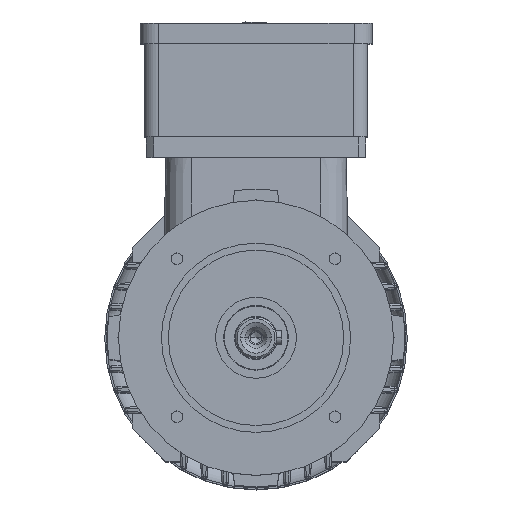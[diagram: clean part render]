
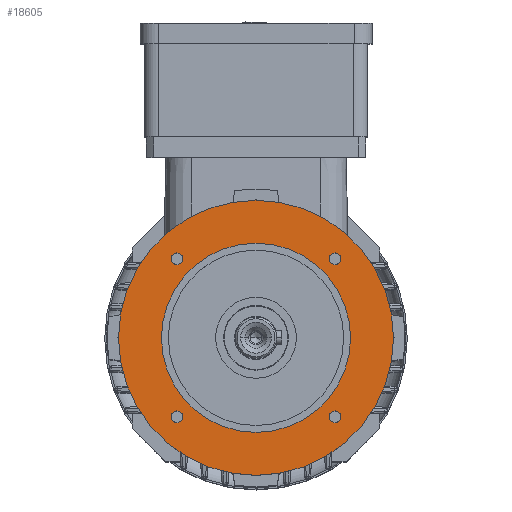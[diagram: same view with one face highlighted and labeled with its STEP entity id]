
A CAD part, top view. The second image highlights one B-rep face of the part: STEP entity #18605.
In plain terms, the highlighted planar face has unit normal (0, 0, 1).
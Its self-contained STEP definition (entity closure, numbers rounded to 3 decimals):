
#1518 = EDGE_CURVE ( 'NONE', #122723, #78391, #106908, .T. ) ;
#1630 = ORIENTED_EDGE ( 'NONE', *, *, #1518, .T. ) ;
#3593 = DIRECTION ( 'NONE',  ( -1., 0., 0. ) ) ;
#4788 = ORIENTED_EDGE ( 'NONE', *, *, #108872, .F. ) ;
#5140 = VERTEX_POINT ( 'NONE', #67941 ) ;
#6437 = DIRECTION ( 'NONE',  ( 1., 0., 0. ) ) ;
#6650 = DIRECTION ( 'NONE',  ( 0., 0., -1. ) ) ;
#6946 = DIRECTION ( 'NONE',  ( 1., 0., 0. ) ) ;
#7171 = EDGE_CURVE ( 'NONE', #38270, #26029, #77857, .T. ) ;
#7751 = EDGE_CURVE ( 'NONE', #78391, #122723, #68830, .T. ) ;
#9155 = VERTEX_POINT ( 'NONE', #38726 ) ;
#9262 = CARTESIAN_POINT ( 'NONE',  ( -80., 0., 136.5 ) ) ;
#9301 = CARTESIAN_POINT ( 'NONE',  ( -45.962, 45.962, 136.5 ) ) ;
#10173 = CARTESIAN_POINT ( 'NONE',  ( 0., 0., 136.5 ) ) ;
#12116 = CIRCLE ( 'NONE', #61311, 3.4 ) ;
#15428 = CARTESIAN_POINT ( 'NONE',  ( -49.362, -45.962, 136.5 ) ) ;
#15875 = VERTEX_POINT ( 'NONE', #61709 ) ;
#17828 = DIRECTION ( 'NONE',  ( 0., 0., 1. ) ) ;
#18502 = ORIENTED_EDGE ( 'NONE', *, *, #60805, .F. ) ;
#18605 = ADVANCED_FACE ( 'NONE', ( #125011, #60350, #53522, #36612, #63710, #19526 ), #72098, .T. ) ;
#19526 = FACE_OUTER_BOUND ( 'NONE', #85365, .T. ) ;
#19564 = ORIENTED_EDGE ( 'NONE', *, *, #49162, .F. ) ;
#20262 = DIRECTION ( 'NONE',  ( 0., 0., 1. ) ) ;
#22655 = AXIS2_PLACEMENT_3D ( 'NONE', #58767, #135758, #3593 ) ;
#24379 = DIRECTION ( 'NONE',  ( 1., 0., 0. ) ) ;
#25031 = AXIS2_PLACEMENT_3D ( 'NONE', #87927, #107912, #120299 ) ;
#26029 = VERTEX_POINT ( 'NONE', #94971 ) ;
#31644 = EDGE_CURVE ( 'NONE', #115207, #15875, #59796, .T. ) ;
#33572 = ORIENTED_EDGE ( 'NONE', *, *, #41284, .F. ) ;
#33733 = AXIS2_PLACEMENT_3D ( 'NONE', #105060, #6650, #71313 ) ;
#34868 = EDGE_LOOP ( 'NONE', ( #35195, #19564 ) ) ;
#35195 = ORIENTED_EDGE ( 'NONE', *, *, #7171, .F. ) ;
#36483 = DIRECTION ( 'NONE',  ( 0., 0., 1. ) ) ;
#36612 = FACE_BOUND ( 'NONE', #76159, .T. ) ;
#38270 = VERTEX_POINT ( 'NONE', #122508 ) ;
#38726 = CARTESIAN_POINT ( 'NONE',  ( -49.362, 45.962, 136.5 ) ) ;
#40127 = CARTESIAN_POINT ( 'NONE',  ( 80., 0., 136.5 ) ) ;
#41284 = EDGE_CURVE ( 'NONE', #46688, #5140, #137417, .T. ) ;
#41704 = DIRECTION ( 'NONE',  ( 1., 0., 0. ) ) ;
#45359 = CIRCLE ( 'NONE', #33733, 80. ) ;
#45736 = AXIS2_PLACEMENT_3D ( 'NONE', #82046, #114797, #71041 ) ;
#46126 = AXIS2_PLACEMENT_3D ( 'NONE', #135712, #124325, #113351 ) ;
#46688 = VERTEX_POINT ( 'NONE', #54909 ) ;
#49162 = EDGE_CURVE ( 'NONE', #26029, #38270, #12116, .T. ) ;
#51425 = CIRCLE ( 'NONE', #83778, 3.4 ) ;
#52386 = EDGE_CURVE ( 'NONE', #5140, #46688, #51425, .T. ) ;
#53522 = FACE_BOUND ( 'NONE', #80700, .T. ) ;
#54909 = CARTESIAN_POINT ( 'NONE',  ( 49.362, -45.962, 136.5 ) ) ;
#58767 = CARTESIAN_POINT ( 'NONE',  ( 0., 0., 136.5 ) ) ;
#59796 = CIRCLE ( 'NONE', #120856, 3.4 ) ;
#60350 = FACE_BOUND ( 'NONE', #34868, .T. ) ;
#60805 = EDGE_CURVE ( 'NONE', #135989, #140114, #45359, .T. ) ;
#61311 = AXIS2_PLACEMENT_3D ( 'NONE', #116247, #17828, #6437 ) ;
#61709 = CARTESIAN_POINT ( 'NONE',  ( -42.562, -45.962, 136.5 ) ) ;
#61868 = ORIENTED_EDGE ( 'NONE', *, *, #31644, .F. ) ;
#61985 = ORIENTED_EDGE ( 'NONE', *, *, #124458, .F. ) ;
#63710 = FACE_BOUND ( 'NONE', #94767, .T. ) ;
#66748 = EDGE_CURVE ( 'NONE', #72507, #9155, #80005, .T. ) ;
#67941 = CARTESIAN_POINT ( 'NONE',  ( 42.562, -45.962, 136.5 ) ) ;
#68657 = ORIENTED_EDGE ( 'NONE', *, *, #66748, .F. ) ;
#68830 = CIRCLE ( 'NONE', #89025, 55. ) ;
#68991 = CARTESIAN_POINT ( 'NONE',  ( 45.962, -45.962, 136.5 ) ) ;
#69219 = EDGE_LOOP ( 'NONE', ( #68657, #115731 ) ) ;
#71041 = DIRECTION ( 'NONE',  ( 1., 0., 0. ) ) ;
#71313 = DIRECTION ( 'NONE',  ( -1., 0., 0. ) ) ;
#72098 = PLANE ( 'NONE',  #109855 ) ;
#72507 = VERTEX_POINT ( 'NONE', #75222 ) ;
#75222 = CARTESIAN_POINT ( 'NONE',  ( -42.562, 45.962, 136.5 ) ) ;
#76159 = EDGE_LOOP ( 'NONE', ( #61985, #61868 ) ) ;
#77857 = CIRCLE ( 'NONE', #129074, 3.4 ) ;
#77988 = DIRECTION ( 'NONE',  ( 1., 0., 0. ) ) ;
#78391 = VERTEX_POINT ( 'NONE', #105597 ) ;
#78467 = CARTESIAN_POINT ( 'NONE',  ( 45.962, -45.962, 136.5 ) ) ;
#80005 = CIRCLE ( 'NONE', #86335, 3.4 ) ;
#80700 = EDGE_LOOP ( 'NONE', ( #33572, #124132 ) ) ;
#82046 = CARTESIAN_POINT ( 'NONE',  ( -45.962, -45.962, 136.5 ) ) ;
#83778 = AXIS2_PLACEMENT_3D ( 'NONE', #68991, #89484, #24379 ) ;
#84081 = DIRECTION ( 'NONE',  ( 0., 0., 1. ) ) ;
#85365 = EDGE_LOOP ( 'NONE', ( #18502, #4788 ) ) ;
#85400 = CARTESIAN_POINT ( 'NONE',  ( 0., 80., 136.5 ) ) ;
#86263 = DIRECTION ( 'NONE',  ( 0., 0., -1. ) ) ;
#86335 = AXIS2_PLACEMENT_3D ( 'NONE', #9301, #20262, #41704 ) ;
#87927 = CARTESIAN_POINT ( 'NONE',  ( 0., 0., 136.5 ) ) ;
#89025 = AXIS2_PLACEMENT_3D ( 'NONE', #10173, #86263, #118637 ) ;
#89484 = DIRECTION ( 'NONE',  ( 0., 0., 1. ) ) ;
#94767 = EDGE_LOOP ( 'NONE', ( #134477, #1630 ) ) ;
#94941 = DIRECTION ( 'NONE',  ( 0., 0., 1. ) ) ;
#94971 = CARTESIAN_POINT ( 'NONE',  ( 42.562, 45.962, 136.5 ) ) ;
#102796 = AXIS2_PLACEMENT_3D ( 'NONE', #78467, #110727, #77988 ) ;
#104905 = CARTESIAN_POINT ( 'NONE',  ( -45.962, -45.962, 136.5 ) ) ;
#105060 = CARTESIAN_POINT ( 'NONE',  ( 0., 0., 136.5 ) ) ;
#105286 = CIRCLE ( 'NONE', #25031, 80. ) ;
#105597 = CARTESIAN_POINT ( 'NONE',  ( -55., 0., 136.5 ) ) ;
#106319 = DIRECTION ( 'NONE',  ( 1., 0., 0. ) ) ;
#106908 = CIRCLE ( 'NONE', #22655, 55. ) ;
#107912 = DIRECTION ( 'NONE',  ( 0., 0., -1. ) ) ;
#108872 = EDGE_CURVE ( 'NONE', #140114, #135989, #105286, .T. ) ;
#109695 = EDGE_CURVE ( 'NONE', #9155, #72507, #115252, .T. ) ;
#109855 = AXIS2_PLACEMENT_3D ( 'NONE', #85400, #94941, #106319 ) ;
#110727 = DIRECTION ( 'NONE',  ( 0., 0., 1. ) ) ;
#110918 = CARTESIAN_POINT ( 'NONE',  ( 55., 0., 136.5 ) ) ;
#113351 = DIRECTION ( 'NONE',  ( 1., 0., 0. ) ) ;
#114797 = DIRECTION ( 'NONE',  ( 0., 0., 1. ) ) ;
#115207 = VERTEX_POINT ( 'NONE', #15428 ) ;
#115252 = CIRCLE ( 'NONE', #46126, 3.4 ) ;
#115460 = DIRECTION ( 'NONE',  ( 1., 0., 0. ) ) ;
#115731 = ORIENTED_EDGE ( 'NONE', *, *, #109695, .F. ) ;
#116247 = CARTESIAN_POINT ( 'NONE',  ( 45.962, 45.962, 136.5 ) ) ;
#118637 = DIRECTION ( 'NONE',  ( -1., 0., 0. ) ) ;
#120299 = DIRECTION ( 'NONE',  ( -1., 0., 0. ) ) ;
#120856 = AXIS2_PLACEMENT_3D ( 'NONE', #104905, #36483, #6946 ) ;
#122508 = CARTESIAN_POINT ( 'NONE',  ( 49.362, 45.962, 136.5 ) ) ;
#122723 = VERTEX_POINT ( 'NONE', #110918 ) ;
#124132 = ORIENTED_EDGE ( 'NONE', *, *, #52386, .F. ) ;
#124325 = DIRECTION ( 'NONE',  ( 0., 0., 1. ) ) ;
#124458 = EDGE_CURVE ( 'NONE', #15875, #115207, #138587, .T. ) ;
#125011 = FACE_BOUND ( 'NONE', #69219, .T. ) ;
#129074 = AXIS2_PLACEMENT_3D ( 'NONE', #137848, #84081, #115460 ) ;
#134477 = ORIENTED_EDGE ( 'NONE', *, *, #7751, .T. ) ;
#135712 = CARTESIAN_POINT ( 'NONE',  ( -45.962, 45.962, 136.5 ) ) ;
#135758 = DIRECTION ( 'NONE',  ( 0., 0., -1. ) ) ;
#135989 = VERTEX_POINT ( 'NONE', #9262 ) ;
#137417 = CIRCLE ( 'NONE', #102796, 3.4 ) ;
#137848 = CARTESIAN_POINT ( 'NONE',  ( 45.962, 45.962, 136.5 ) ) ;
#138587 = CIRCLE ( 'NONE', #45736, 3.4 ) ;
#140114 = VERTEX_POINT ( 'NONE', #40127 ) ;
